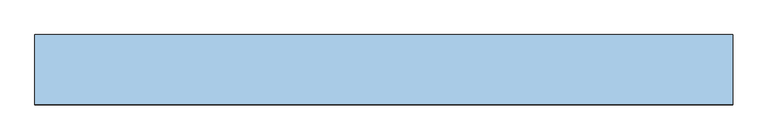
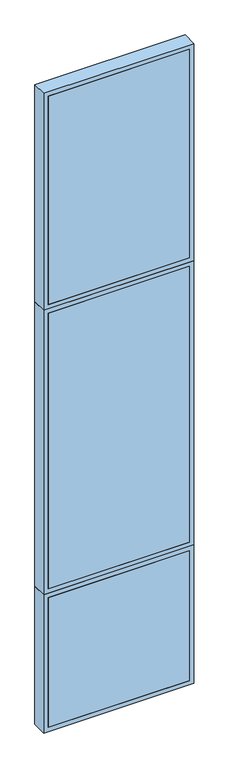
"""IFC4 building model written with IfcOpenShell, lengths in millimetres: window geometry, TRP_CP_ARC_FI_V1 : AL_P01_100."""

from ifc_helpers import new_model, si_unit, frame, origin, place, context, project, spatial, polyline, outline, extrude, source, transform, mapped, element, save


def window_36c3ef3e(model_context):
    return source(origin(), model_context, "Body", "SweptSolid", [
        extrude(outline(polyline([(470.0, -50.0), (-470.0, -50.0), (-470.0, -30.0), (470.0, -30.0), (470.0, -50.0)])), frame((0.0, 0.0, 30.0), z_axis=(0.0, 0.0, 1.0), x_axis=(1.0, 0.0, 0.0)), (0.0, 0.0, 1.0), 913.0),
        extrude(outline(polyline([(973.0, 500.0), (973.0, -500.0), (0.0, -500.0), (0.0, 500.0), (973.0, 500.0)]), holes=[polyline([(30.0, 470.0), (30.0, -470.0), (943.0, -470.0), (943.0, 470.0), (30.0, 470.0)])]), frame((0.0, -50.0, 0.0), z_axis=(0.0, 1.0, 0.0), x_axis=(0.0, 0.0, 1.0)), (0.0, 0.0, 1.0), 100.0),
        extrude(outline(polyline([(2973.0, 500.0), (2973.0, -500.0), (973.0, -500.0), (973.0, 500.0), (2973.0, 500.0)]), holes=[polyline([(1003.0, 470.0), (1003.0, -470.0), (2943.0, -470.0), (2943.0, 470.0), (1003.0, 470.0)])]), frame((0.0, -50.0, 0.0), z_axis=(0.0, 1.0, 0.0), x_axis=(0.0, 0.0, 1.0)), (0.0, 0.0, 1.0), 100.0),
        extrude(outline(polyline([(470.0, -50.0), (-470.0, -50.0), (-470.0, -30.0), (470.0, -30.0), (470.0, -50.0)])), frame((0.0, 0.0, 1003.0), z_axis=(0.0, 0.0, 1.0), x_axis=(1.0, 0.0, 0.0)), (0.0, 0.0, 1.0), 1940.0),
        extrude(outline(polyline([(4500.0, 500.0), (4500.0, -500.0), (2973.0, -500.0), (2973.0, 500.0), (4500.0, 500.0)]), holes=[polyline([(3003.0, 470.0), (3003.0, -470.0), (4470.0, -470.0), (4470.0, 470.0), (3003.0, 470.0)])]), frame((0.0, -50.0, 0.0), z_axis=(0.0, 1.0, 0.0), x_axis=(0.0, 0.0, 1.0)), (0.0, 0.0, 1.0), 100.0),
        extrude(outline(polyline([(470.0, -50.0), (-470.0, -50.0), (-470.0, -30.0), (470.0, -30.0), (470.0, -50.0)])), frame((0.0, 0.0, 3003.0), z_axis=(0.0, 0.0, 1.0), x_axis=(1.0, 0.0, 0.0)), (0.0, 0.0, 1.0), 1467.0),
    ])


if __name__ == "__main__":
    model = new_model("IFC4")
    model_context = context("Model", 3, world=origin())
    ifc_project = project(units=[si_unit("LENGTHUNIT", "METRE", prefix="MILLI")], contexts=[model_context])
    site = spatial("IfcSite", under=ifc_project)
    building = spatial("IfcBuilding", under=site)
    placement = place(None, origin())
    window_shape = window_36c3ef3e(model_context)
    element("IfcWindow", 1, ObjectType="TRP_CP_ARC_FI_V1 : AL_P01_100", at=placement, inside=building, context=model_context, shape_type="MappedRepresentation", body=[
        mapped(window_shape, transform((0.0, 0.0, 0.0), x_axis=(1.0, 0.0, 0.0), y_axis=(0.0, 1.0, 0.0), z_axis=(0.0, 0.0, 1.0))),
    ])
    save(model, "model.ifc")
